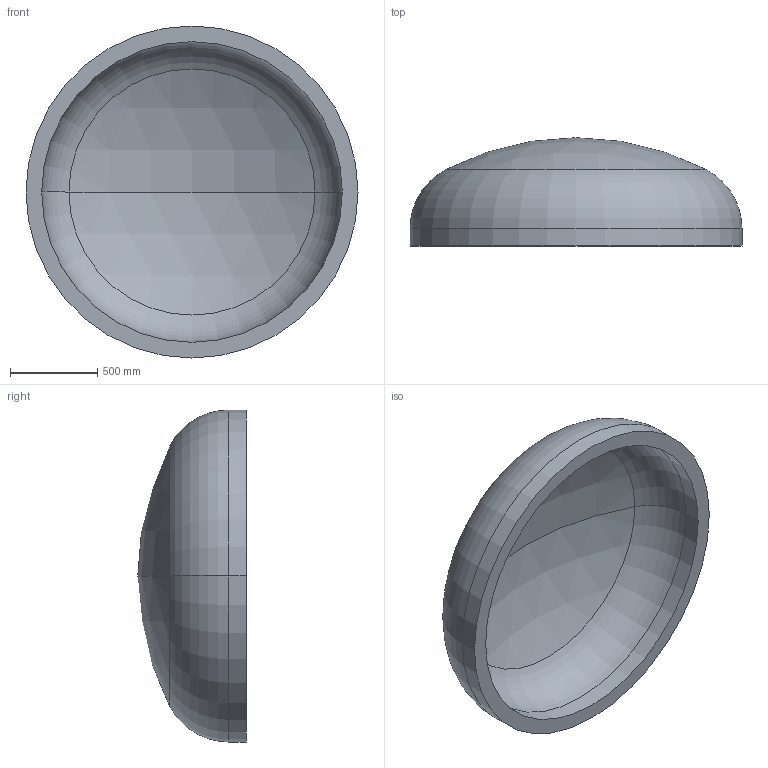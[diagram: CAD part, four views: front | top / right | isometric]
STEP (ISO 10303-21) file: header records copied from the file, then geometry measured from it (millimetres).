
FILE_DESCRIPTION (( 'STEP AP203' ), '1' );
FILE_NAME ('DIN 28013 Korbbogenform_-_Boden DIN 28013 - 1900 x 100 - I - s=90.step', '2016-07-01T13:22:58', ( '' ), ( '' ), 'SwSTEP 2.0', 'SolidWorks 2013', '' );
FILE_SCHEMA (( 'CONFIG_CONTROL_DESIGN' ));
Length unit declared in the file: millimetre
Products named in the file (1): DIN 28013 Korbbogenform_-_Boden DIN 28013 - 1900 x 100 - I - s=90
Bounding box: 1900 x 620.05 x 1900 mm (x, y, z)
Volume: 383073256.1 mm3; surface area: 9041466.7 mm2
Topology: 1 solids, 1 shells, 13 faces, 24 edges, 14 vertices
Faces by surface type: torus 4, cylinder 4, sphere 4, plane 1
Entity records: 407 total; most frequent: DIRECTION 72, CARTESIAN_POINT 52, ORIENTED_EDGE 48, AXIS2_PLACEMENT_3D 34, EDGE_CURVE 24, CIRCLE 20, VERTEX_POINT 14, EDGE_LOOP 14
